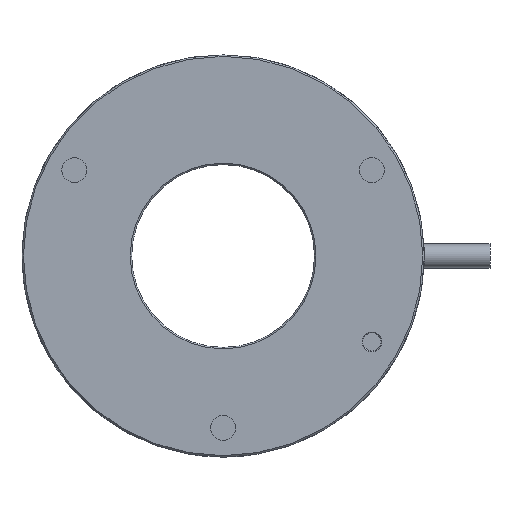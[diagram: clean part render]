
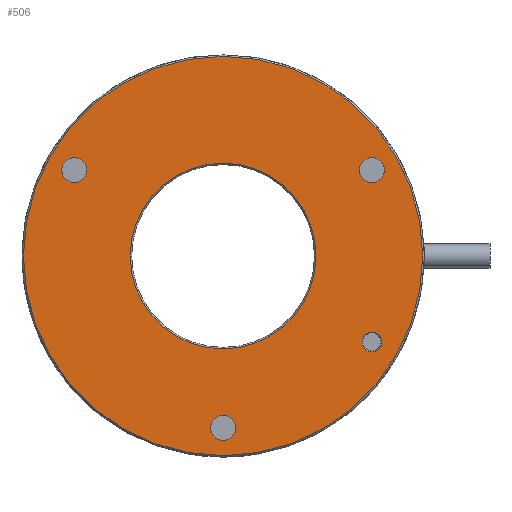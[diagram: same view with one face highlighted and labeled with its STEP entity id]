
A CAD part, front view. The second image highlights one B-rep face of the part: STEP entity #506.
In plain terms, the highlighted planar face has unit normal (0, -1, 0).
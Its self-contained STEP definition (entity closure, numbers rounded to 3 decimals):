
#22 = VERTEX_POINT ( 'NONE', #7179 ) ;
#174 = EDGE_CURVE ( 'NONE', #5643, #6882, #3481, .T. ) ;
#225 = CARTESIAN_POINT ( 'NONE',  ( 0., -8., -23.5 ) ) ;
#306 = CIRCLE ( 'NONE', #5299, 12.7 ) ;
#323 = DIRECTION ( 'NONE',  ( 0., 1., 0. ) ) ;
#339 = VERTEX_POINT ( 'NONE', #6702 ) ;
#506 = ADVANCED_FACE ( 'NONE', ( #6854, #7569, #9942, #5377, #9786, #5281 ), #3076, .F. ) ;
#694 = EDGE_LOOP ( 'NONE', ( #9702, #6980 ) ) ;
#842 = DIRECTION ( 'NONE',  ( 0., 1., 0. ) ) ;
#956 = VERTEX_POINT ( 'NONE', #5761 ) ;
#1045 = EDGE_CURVE ( 'NONE', #6998, #7217, #7850, .T. ) ;
#1104 = CIRCLE ( 'NONE', #5273, 27.3 ) ;
#1266 = EDGE_CURVE ( 'NONE', #339, #956, #1104, .T. ) ;
#1345 = EDGE_CURVE ( 'NONE', #3677, #3043, #6049, .T. ) ;
#1625 = ORIENTED_EDGE ( 'NONE', *, *, #1045, .T. ) ;
#1705 = CARTESIAN_POINT ( 'NONE',  ( 20.352, -8., -10.4 ) ) ;
#1792 = DIRECTION ( 'NONE',  ( 0., 0., 1. ) ) ;
#1851 = DIRECTION ( 'NONE',  ( 0., 0., 1. ) ) ;
#2004 = AXIS2_PLACEMENT_3D ( 'NONE', #5208, #9013, #2967 ) ;
#2055 = DIRECTION ( 'NONE',  ( 0., 1., 0. ) ) ;
#2059 = VERTEX_POINT ( 'NONE', #5047 ) ;
#2176 = CARTESIAN_POINT ( 'NONE',  ( 0., -8., 0. ) ) ;
#2196 = AXIS2_PLACEMENT_3D ( 'NONE', #6098, #6809, #6044 ) ;
#2642 = CARTESIAN_POINT ( 'NONE',  ( 0., -8., 0. ) ) ;
#2659 = CARTESIAN_POINT ( 'NONE',  ( 20.352, -8., 13.45 ) ) ;
#2696 = EDGE_CURVE ( 'NONE', #3347, #22, #9679, .T. ) ;
#2707 = CARTESIAN_POINT ( 'NONE',  ( 0., -8., 0. ) ) ;
#2868 = CARTESIAN_POINT ( 'NONE',  ( 20.352, -8., 11.75 ) ) ;
#2958 = VERTEX_POINT ( 'NONE', #2659 ) ;
#2967 = DIRECTION ( 'NONE',  ( 0., 0., 1. ) ) ;
#3035 = CARTESIAN_POINT ( 'NONE',  ( 0., -8., -23.5 ) ) ;
#3043 = VERTEX_POINT ( 'NONE', #4812 ) ;
#3076 = PLANE ( 'NONE',  #4406 ) ;
#3347 = VERTEX_POINT ( 'NONE', #6241 ) ;
#3355 = DIRECTION ( 'NONE',  ( 0., 0., 1. ) ) ;
#3481 = CIRCLE ( 'NONE', #2196, 1.7 ) ;
#3482 = CIRCLE ( 'NONE', #4482, 1.7 ) ;
#3566 = CARTESIAN_POINT ( 'NONE',  ( -20.352, -8., 11.75 ) ) ;
#3654 = DIRECTION ( 'NONE',  ( 0., 0., 1. ) ) ;
#3659 = DIRECTION ( 'NONE',  ( 0., 0., 1. ) ) ;
#3677 = VERTEX_POINT ( 'NONE', #1705 ) ;
#3730 = EDGE_LOOP ( 'NONE', ( #4464, #8648 ) ) ;
#3843 = EDGE_LOOP ( 'NONE', ( #6378, #7649 ) ) ;
#3942 = AXIS2_PLACEMENT_3D ( 'NONE', #3566, #9535, #6640 ) ;
#4061 = DIRECTION ( 'NONE',  ( 0., -1., 0. ) ) ;
#4406 = AXIS2_PLACEMENT_3D ( 'NONE', #2176, #6746, #1792 ) ;
#4464 = ORIENTED_EDGE ( 'NONE', *, *, #5658, .T. ) ;
#4482 = AXIS2_PLACEMENT_3D ( 'NONE', #5467, #8517, #5662 ) ;
#4502 = ORIENTED_EDGE ( 'NONE', *, *, #6271, .T. ) ;
#4548 = EDGE_LOOP ( 'NONE', ( #6962, #1625 ) ) ;
#4786 = CIRCLE ( 'NONE', #7985, 1.35 ) ;
#4812 = CARTESIAN_POINT ( 'NONE',  ( 20.352, -8., -13.1 ) ) ;
#4881 = DIRECTION ( 'NONE',  ( 0., 0., 1. ) ) ;
#5024 = DIRECTION ( 'NONE',  ( 0., 1., 0. ) ) ;
#5047 = CARTESIAN_POINT ( 'NONE',  ( 20.352, -8., 10.05 ) ) ;
#5208 = CARTESIAN_POINT ( 'NONE',  ( 0., -8., 0. ) ) ;
#5231 = CARTESIAN_POINT ( 'NONE',  ( 20.352, -8., -11.75 ) ) ;
#5273 = AXIS2_PLACEMENT_3D ( 'NONE', #2707, #4061, #1851 ) ;
#5281 = FACE_BOUND ( 'NONE', #3730, .T. ) ;
#5299 = AXIS2_PLACEMENT_3D ( 'NONE', #2642, #5024, #4881 ) ;
#5377 = FACE_BOUND ( 'NONE', #694, .T. ) ;
#5467 = CARTESIAN_POINT ( 'NONE',  ( 20.352, -8., 11.75 ) ) ;
#5611 = AXIS2_PLACEMENT_3D ( 'NONE', #3035, #842, #6328 ) ;
#5612 = CARTESIAN_POINT ( 'NONE',  ( 0., -8., 12.7 ) ) ;
#5643 = VERTEX_POINT ( 'NONE', #8824 ) ;
#5658 = EDGE_CURVE ( 'NONE', #6882, #5643, #7157, .T. ) ;
#5662 = DIRECTION ( 'NONE',  ( 0., 0., 1. ) ) ;
#5676 = ORIENTED_EDGE ( 'NONE', *, *, #6031, .T. ) ;
#5735 = EDGE_LOOP ( 'NONE', ( #4502, #9116 ) ) ;
#5761 = CARTESIAN_POINT ( 'NONE',  ( 0., -8., -27.3 ) ) ;
#5935 = CIRCLE ( 'NONE', #6247, 1.7 ) ;
#6031 = EDGE_CURVE ( 'NONE', #956, #339, #6989, .T. ) ;
#6044 = DIRECTION ( 'NONE',  ( 0., 0., 1. ) ) ;
#6049 = CIRCLE ( 'NONE', #7812, 1.35 ) ;
#6098 = CARTESIAN_POINT ( 'NONE',  ( -20.352, -8., 11.75 ) ) ;
#6120 = CARTESIAN_POINT ( 'NONE',  ( 20.352, -8., -11.75 ) ) ;
#6241 = CARTESIAN_POINT ( 'NONE',  ( 0., -8., -21.8 ) ) ;
#6247 = AXIS2_PLACEMENT_3D ( 'NONE', #2868, #2055, #3654 ) ;
#6271 = EDGE_CURVE ( 'NONE', #3043, #3677, #4786, .T. ) ;
#6328 = DIRECTION ( 'NONE',  ( 0., 0., 1. ) ) ;
#6378 = ORIENTED_EDGE ( 'NONE', *, *, #8213, .T. ) ;
#6577 = ORIENTED_EDGE ( 'NONE', *, *, #1266, .T. ) ;
#6640 = DIRECTION ( 'NONE',  ( 0., 0., 1. ) ) ;
#6669 = CARTESIAN_POINT ( 'NONE',  ( 0., -8., -12.7 ) ) ;
#6702 = CARTESIAN_POINT ( 'NONE',  ( 0., -8., 27.3 ) ) ;
#6746 = DIRECTION ( 'NONE',  ( 0., 1., 0. ) ) ;
#6809 = DIRECTION ( 'NONE',  ( 0., 1., 0. ) ) ;
#6854 = FACE_BOUND ( 'NONE', #5735, .T. ) ;
#6882 = VERTEX_POINT ( 'NONE', #8822 ) ;
#6962 = ORIENTED_EDGE ( 'NONE', *, *, #9408, .T. ) ;
#6980 = ORIENTED_EDGE ( 'NONE', *, *, #9311, .T. ) ;
#6989 = CIRCLE ( 'NONE', #2004, 27.3 ) ;
#6998 = VERTEX_POINT ( 'NONE', #5612 ) ;
#7019 = AXIS2_PLACEMENT_3D ( 'NONE', #7228, #9549, #9503 ) ;
#7157 = CIRCLE ( 'NONE', #3942, 1.7 ) ;
#7179 = CARTESIAN_POINT ( 'NONE',  ( 0., -8., -25.2 ) ) ;
#7217 = VERTEX_POINT ( 'NONE', #6669 ) ;
#7228 = CARTESIAN_POINT ( 'NONE',  ( 0., -8., 0. ) ) ;
#7531 = DIRECTION ( 'NONE',  ( 0., 1., 0. ) ) ;
#7557 = DIRECTION ( 'NONE',  ( 0., 1., 0. ) ) ;
#7569 = FACE_BOUND ( 'NONE', #4548, .T. ) ;
#7579 = DIRECTION ( 'NONE',  ( 0., 0., 1. ) ) ;
#7649 = ORIENTED_EDGE ( 'NONE', *, *, #8032, .T. ) ;
#7812 = AXIS2_PLACEMENT_3D ( 'NONE', #5231, #7531, #7579 ) ;
#7850 = CIRCLE ( 'NONE', #7019, 12.7 ) ;
#7985 = AXIS2_PLACEMENT_3D ( 'NONE', #6120, #7557, #3659 ) ;
#8032 = EDGE_CURVE ( 'NONE', #2059, #2958, #3482, .T. ) ;
#8213 = EDGE_CURVE ( 'NONE', #2958, #2059, #5935, .T. ) ;
#8517 = DIRECTION ( 'NONE',  ( 0., 1., 0. ) ) ;
#8641 = CIRCLE ( 'NONE', #5611, 1.7 ) ;
#8648 = ORIENTED_EDGE ( 'NONE', *, *, #174, .T. ) ;
#8822 = CARTESIAN_POINT ( 'NONE',  ( -20.352, -8., 13.45 ) ) ;
#8824 = CARTESIAN_POINT ( 'NONE',  ( -20.352, -8., 10.05 ) ) ;
#9013 = DIRECTION ( 'NONE',  ( 0., -1., 0. ) ) ;
#9034 = AXIS2_PLACEMENT_3D ( 'NONE', #225, #323, #3355 ) ;
#9116 = ORIENTED_EDGE ( 'NONE', *, *, #1345, .T. ) ;
#9311 = EDGE_CURVE ( 'NONE', #22, #3347, #8641, .T. ) ;
#9408 = EDGE_CURVE ( 'NONE', #7217, #6998, #306, .T. ) ;
#9503 = DIRECTION ( 'NONE',  ( 0., 0., 1. ) ) ;
#9535 = DIRECTION ( 'NONE',  ( 0., 1., 0. ) ) ;
#9549 = DIRECTION ( 'NONE',  ( 0., 1., 0. ) ) ;
#9614 = EDGE_LOOP ( 'NONE', ( #6577, #5676 ) ) ;
#9679 = CIRCLE ( 'NONE', #9034, 1.7 ) ;
#9702 = ORIENTED_EDGE ( 'NONE', *, *, #2696, .T. ) ;
#9786 = FACE_BOUND ( 'NONE', #3843, .T. ) ;
#9942 = FACE_OUTER_BOUND ( 'NONE', #9614, .T. ) ;
